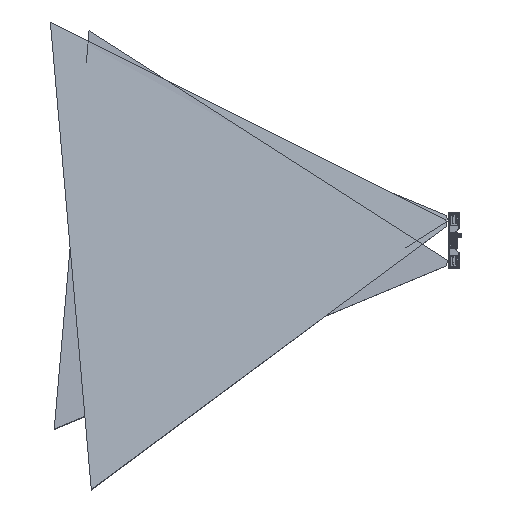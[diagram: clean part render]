
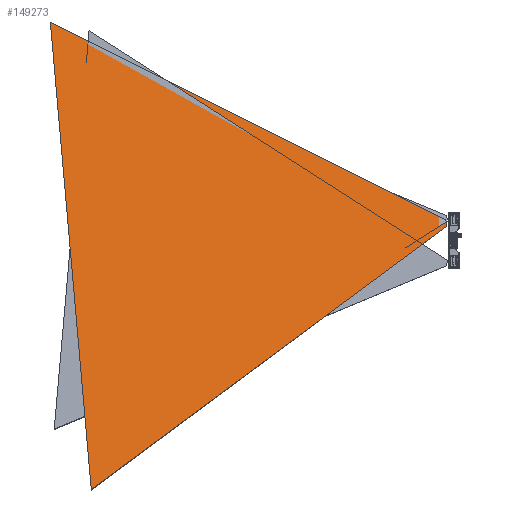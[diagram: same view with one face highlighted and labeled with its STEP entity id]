
A CAD part, top view. The second image highlights one B-rep face of the part: STEP entity #149273.
In plain terms, the highlighted planar face has unit normal (0.416, 0.036, 0.908).
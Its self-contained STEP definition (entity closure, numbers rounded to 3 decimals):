
#149162=DIRECTION('',(-0.748,-0.554,0.365));
#149163=VECTOR('',#149162,4474.339);
#149164=CARTESIAN_POINT('',(-58.511,134.596,
21.997));
#149165=LINE('',#149164,#149163);
#149182=DIRECTION('',(0.833,-0.416,-0.365));
#149183=VECTOR('',#149182,4474.339);
#149184=CARTESIAN_POINT('',(-3790.327,2057.772,
1654.815));
#149185=LINE('',#149184,#149183);
#149190=DIRECTION('',(0.087,-0.996,0.));
#149191=VECTOR('',#149190,61.4);
#149192=CARTESIAN_POINT('',(-63.862,195.763,
21.997));
#149193=LINE('',#149192,#149191);
#149194=DIRECTION('',(-0.087,0.996,0.));
#149195=VECTOR('',#149194,4420.813);
#149196=CARTESIAN_POINT('',(-3405.028,-2346.218,
1654.815));
#149197=LINE('',#149196,#149195);
#149199=CARTESIAN_POINT('',(-58.511,134.596,
21.997));
#149201=VERTEX_POINT('',#149199);
#149202=CARTESIAN_POINT('',(-3405.028,-2346.218,
1654.815));
#149204=VERTEX_POINT('',#149202);
#149210=CARTESIAN_POINT('',(-63.862,195.763,
21.997));
#149211=VERTEX_POINT('',#149210);
#149212=CARTESIAN_POINT('',(-3790.327,2057.772,
1654.815));
#149213=VERTEX_POINT('',#149212);
#149260=CARTESIAN_POINT('',(-1829.432,10.478,
838.406));
#149261=DIRECTION('',(0.416,0.036,0.909));
#149262=DIRECTION('',(0.905,0.079,-0.418));
#149263=AXIS2_PLACEMENT_3D('',#149260,#149261,#149262);
#149264=PLANE('',#149263);
#149266=ORIENTED_EDGE('',*,*,#149265,.T.);
#149267=ORIENTED_EDGE('',*,*,#149225,.T.);
#149269=ORIENTED_EDGE('',*,*,#149268,.T.);
#149270=ORIENTED_EDGE('',*,*,#149252,.T.);
#149271=EDGE_LOOP('',(#149266,#149267,#149269,#149270));
#149272=FACE_OUTER_BOUND('',#149271,.F.);
#149225=EDGE_CURVE('',#149201,#149204,#149165,.T.);
#149252=EDGE_CURVE('',#149213,#149211,#149185,.T.);
#149265=EDGE_CURVE('',#149211,#149201,#149193,.T.);
#149268=EDGE_CURVE('',#149204,#149213,#149197,.T.);
#149273=ADVANCED_FACE('',(#149272),#149264,.T.);
